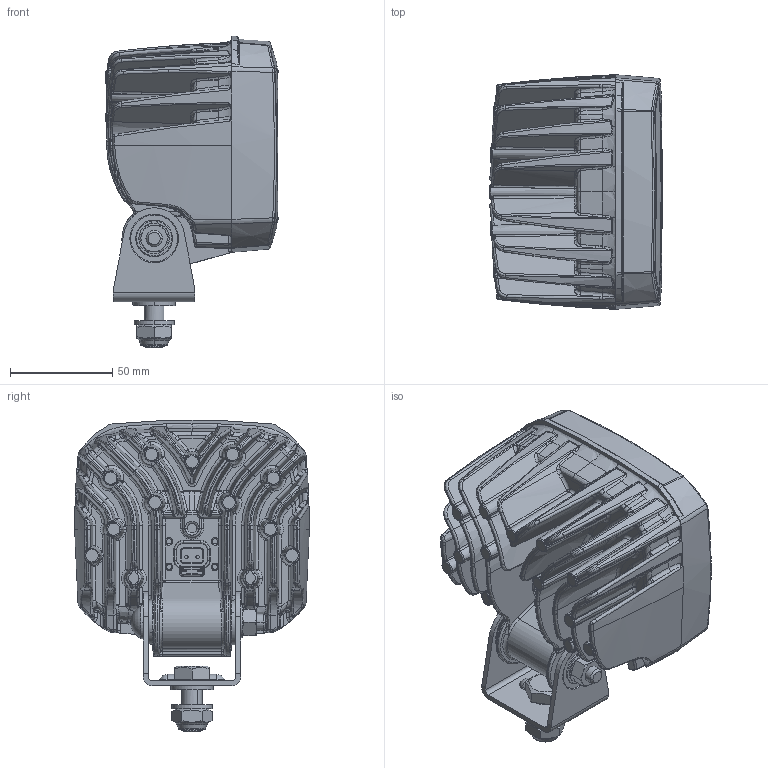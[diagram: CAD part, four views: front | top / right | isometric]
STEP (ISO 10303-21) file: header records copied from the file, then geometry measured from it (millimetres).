
FILE_DESCRIPTION(('CATIA V5 STEP Exchange','CAx-IF Rec.Pracs.--- Model Styling and Organization---1.5--- 2016-08-15','CAx-IF Rec.Pracs.---Supplemental Geometry---1.0---2011-11-01','CAx-IF Rec.Pracs.--- Composite Materials ---1.1---2010-07-15'),'2;1');
FILE_NAME('E:\tmp\ddx\2015442\HELLA_3D_data_Ultra_Beam_LED_Generation_1_upright_mounting_1_995-506-00.stp','2022-01-28T12:03:36+00:00',('none'),('none'),'CATIA Version 5-6 Release 2020 SP3 HF9','CATIA V5 STEP AP214 Edition 3 v2','none');
FILE_SCHEMA(('AUTOMOTIVE_DESIGN { 1 0 10303 214 3 1 1 1 }'));
Length unit declared in the file: millimetre
Products named in the file (1): 10001118248_D10_001
Bounding box: 84.48 x 115 x 152.47 mm (x, y, z)
Volume: 612626.3 mm3; surface area: 120235 mm2
Topology: 2 solids, 15 shells, 3118 faces, 8443 edges, 4932 vertices
Faces by surface type: bspline 1285, plane 818, cylinder 327, torus 293, cone 257, revolution 69, sphere 59, extrusion 10
Entity records: 186590 total; most frequent: CARTESIAN_POINT 124075, ORIENTED_EDGE 16640, EDGE_CURVE 8320, DIRECTION 6658, VERTEX_POINT 4932, B_SPLINE_CURVE_WITH_KNOTS 4656, AXIS2_PLACEMENT_3D 3345, EDGE_LOOP 3182
